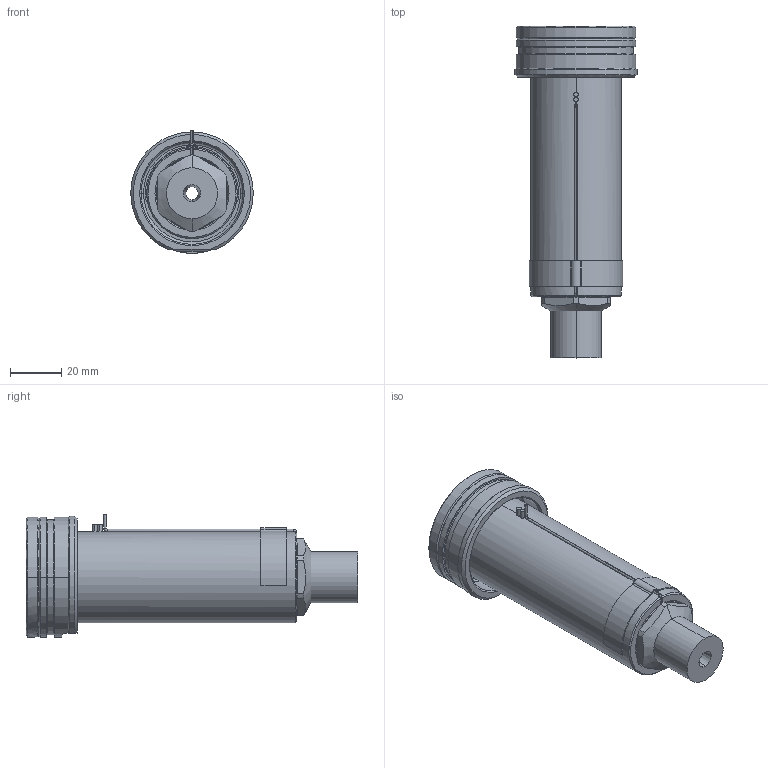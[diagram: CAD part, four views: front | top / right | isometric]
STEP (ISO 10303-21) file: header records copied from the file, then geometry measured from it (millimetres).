
FILE_DESCRIPTION((''),'2;1');
FILE_NAME('EO16_VG-FBE_WR_100_SW','2024-02-19T14:12:36',('sundharh'),(''),'CREO PARAMETRIC BY PTC INC, 2023154','CREO PARAMETRIC BY PTC INC, 2023154','');
FILE_SCHEMA(('CONFIG_CONTROL_DESIGN'));
Length unit declared in the file: millimetre
Products named in the file (1): EO16_VG-FBE_WR_100_SW
Bounding box: 47.97 x 130 x 48 mm (x, y, z)
Volume: 103327.3 mm3; surface area: 28758.9 mm2
Topology: 1 solids, 1 shells, 199 faces, 478 edges, 288 vertices
Faces by surface type: cylinder 72, plane 47, cone 41, torus 24, bspline 13, sphere 2
Entity records: 6654 total; most frequent: CARTESIAN_POINT 1932, DIRECTION 1064, ORIENTED_EDGE 944, EDGE_CURVE 472, AXIS2_PLACEMENT_3D 446, VERTEX_POINT 288, CIRCLE 260, EDGE_LOOP 216
